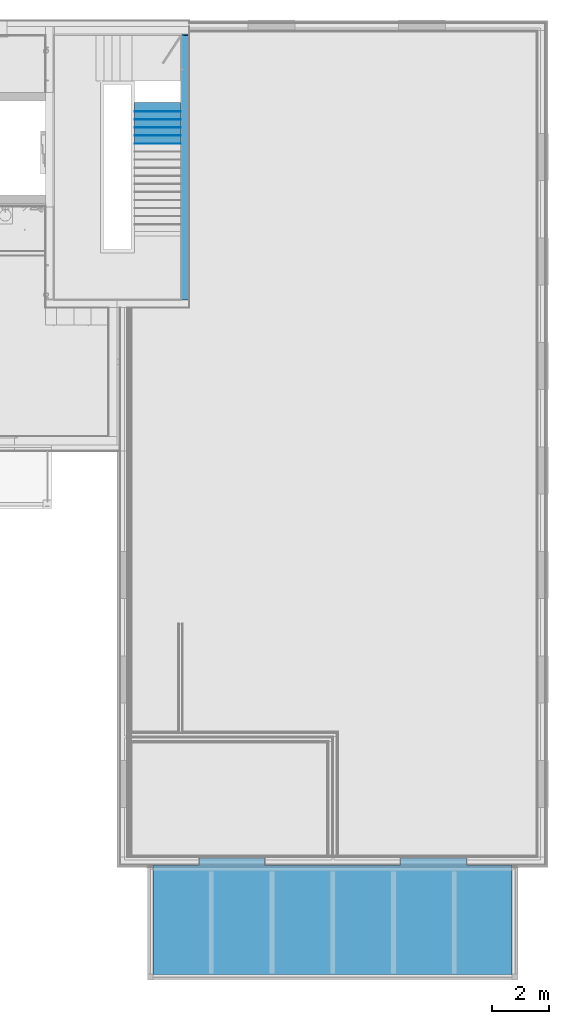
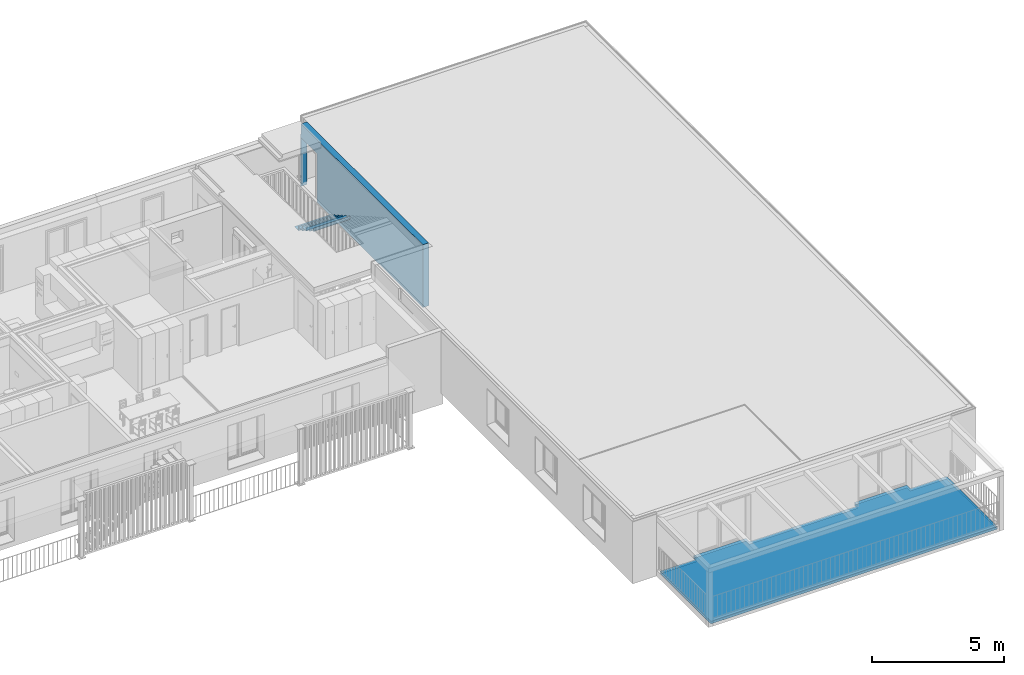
# One storey, part 14 of 34: 14 building element parts, 1 opening, 3 elements without a shape of their own.
"""IFC4 building model written with IfcOpenShell, lengths in millimetres."""

from ifc_helpers import new_model, entity, si_unit, converted_unit, derived_unit, direction, frame, origin_with_axes, place, context, subcontext, project, spatial, polygons, material, type_object, element, aggregate, save


model = new_model("IFC4")

# Units and contexts
model_context = context("Model", 3, precision=0.01, world=origin_with_axes(), true_north=direction((0.0, 1.0)))
body_context = subcontext(model_context, "Body", "Model", "MODEL_VIEW")
ifc_project = project(units=[si_unit("LENGTHUNIT", "METRE", prefix="MILLI"), si_unit("AREAUNIT", "SQUARE_METRE"), si_unit("VOLUMEUNIT", "CUBIC_METRE"), converted_unit("PLANEANGLEUNIT", "DEGREE", entity("IfcPlaneAngleMeasure", 0.0174532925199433), si_unit("PLANEANGLEUNIT", "RADIAN"), dimensions=[0, 0, 0, 0, 0, 0, 0]), converted_unit("TIMEUNIT", "Year", entity("IfcTimeMeasure", 31557600.0), si_unit("TIMEUNIT", "SECOND"), dimensions=[0, 0, 1, 0, 0, 0, 0]), si_unit("MASSUNIT", "GRAM", prefix="KILO"), si_unit("THERMODYNAMICTEMPERATUREUNIT", "DEGREE_CELSIUS"), si_unit("LUMINOUSINTENSITYUNIT", "LUMEN"), si_unit("ENERGYUNIT", "JOULE", prefix="MEGA"), derived_unit("THERMALCONDUCTANCEUNIT", [(si_unit("POWERUNIT", "WATT"), 1), (si_unit("LENGTHUNIT", "METRE"), -1), (si_unit("THERMODYNAMICTEMPERATUREUNIT", "KELVIN"), -1)]), derived_unit("SPECIFICHEATCAPACITYUNIT", [(si_unit("ENERGYUNIT", "JOULE"), 1), (si_unit("MASSUNIT", "GRAM", prefix="KILO"), -1), (si_unit("THERMODYNAMICTEMPERATUREUNIT", "KELVIN"), -1)]), derived_unit("MASSDENSITYUNIT", [(si_unit("MASSUNIT", "GRAM", prefix="KILO"), 1), (si_unit("VOLUMEUNIT", "CUBIC_METRE"), -1)])], contexts=[model_context])

# Site, building, storey
site_placement = place(None, origin_with_axes())
site = spatial("IfcSite", under=ifc_project, at=site_placement, Name="Gelände", CompositionType="ELEMENT")
building_placement = place(site_placement, origin_with_axes())
building = spatial("IfcBuilding", under=site, at=building_placement, Name="Gebäude", CompositionType="ELEMENT")
storey_placement = place(building_placement, frame((0.0, 0.0, 5799.999999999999), z_axis=(0.0, 0.0, 1.0), x_axis=(1.0, 0.0, 0.0)))
storey = spatial("IfcBuildingStorey", under=building, at=storey_placement, Name="2.OG", CompositionType="ELEMENT", Elevation=5800.0)

# Wall, opening, building element part
wall_type = type_object("IfcWallType", Name="Innenwand Typ 10 310", PredefinedType="NOTDEFINED")
wall_placement = place(storey_placement, frame((20128.99744477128, 27937.59728131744, 499.9999999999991), z_axis=(0.0, 0.0, 1.0), x_axis=(0.0, 1.0, 0.0)))
wall = element("IfcWall", 1, at=wall_placement, inside=storey, type_object=wall_type, Name="Wand-014", PredefinedType="NOTDEFINED")
opening_placement = place(wall_placement, frame((8899.999999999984, 0.0, 150.0000000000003), z_axis=(0.0, 0.0, 1.0), x_axis=(1.0, 0.0, 0.0)))
element("IfcOpeningElement", 2, at=opening_placement, cuts=wall, Name="Tür-012", context=body_context, identifier="Reference", shape_type="Tessellation", body=[
    polygons([(-600.0000000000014, -310.9999999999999, 2100.0), (-600.0000000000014, -310.9999999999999, -649.9999999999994), (600.0000000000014, -310.9999999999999, -649.9999999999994), (600.0000000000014, -310.9999999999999, 2100.0), (-600.0000000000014, 1.000000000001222, 2100.0), (-600.0000000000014, 1.000000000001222, -649.9999999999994), (600.0000000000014, 1.000000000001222, -649.9999999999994), (600.0000000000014, 1.000000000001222, 2100.0)], [[[1, 2, 3, 4]], [[5, 6, 2, 1]], [[6, 7, 3, 2]], [[7, 8, 4, 3]], [[8, 5, 1, 4]], [[7, 6, 5, 8]]], closed=True),
])
ifc_material_1 = material(Name="Beton bewehrt")
building_element_part_1_placement = place(wall_placement, origin_with_axes())
building_element_part_1 = element("IfcBuildingElementPart", 3, at=building_element_part_1_placement, material=ifc_material_1, Name="Beton bewehrt", PredefinedType="NOTDEFINED", context=body_context, shape_type="Tessellation", body=[
    polygons([(8299.999999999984, -300.0000000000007, 0.0), (8299.999999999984, -300.0000000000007, 2250.000000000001), (9499.999999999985, -300.0000000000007, 2250.000000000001), (9499.999999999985, -300.0000000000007, 150.0000000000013), (9499.999999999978, -300.0000000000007, 0.0), (9539.999999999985, -300.0000000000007, 0.0), (9539.999999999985, -300.0000000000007, 2400.000000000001), (9499.999999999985, -300.0000000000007, 2400.000000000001), (9499.999999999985, -300.0000000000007, 2900.000000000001), (269.9999999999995, -300.0000000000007, 2900.000000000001), (269.9999999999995, -300.0000000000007, 0.0), (8299.999999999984, -39.99999999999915, 0.0), (8299.999999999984, -39.99999999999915, 2250.000000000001), (9499.999999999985, -39.99999999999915, 2250.000000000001), (9499.999999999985, -39.99999999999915, 150.0000000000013), (9499.999999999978, -39.99999999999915, 0.0), (9539.999999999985, -39.99999999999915, 0.0), (9539.999999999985, -39.99999999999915, 2400.000000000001), (9499.999999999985, -39.99999999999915, 2400.000000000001), (9499.999999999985, -39.99999999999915, 2900.000000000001), (269.9999999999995, -39.99999999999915, 2900.000000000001), (269.9999999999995, -39.99999999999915, 0.0)], [[[1, 2, 3, 4, 5, 6, 7, 8, 9, 10, 11]], [[2, 1, 12, 13]], [[3, 2, 13, 14]], [[4, 3, 14, 15]], [[4, 15, 16, 5]], [[16, 17, 6, 5]], [[18, 7, 6, 17]], [[8, 7, 18, 19]], [[20, 9, 8, 19]], [[9, 20, 21, 10]], [[22, 11, 10, 21]], [[12, 1, 11, 22]], [[13, 12, 22, 21, 20, 19, 18, 17, 16, 15, 14]]], closed=True),
])
aggregate(wall, [building_element_part_1])

# Stair, building element parts
stair_type = type_object("IfcStairType", Name="Treppentyp", PredefinedType="NOTDEFINED")
stair_placement = place(storey_placement, frame((20128.99743772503, 35092.59728131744, 650.0000000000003), z_axis=(0.0, 0.0, 1.0), x_axis=(1.0, 0.0, 0.0)))
stair = element("IfcStair", 4, at=stair_placement, inside=storey, type_object=stair_type, Name="Treppe-001", PredefinedType="NOTDEFINED")
ifc_material_2 = material(Name="Keramik")
building_element_part_2_placement = place(stair_placement, origin_with_axes())
building_element_part_2 = element("IfcBuildingElementPart", 5, at=building_element_part_2_placement, material=ifc_material_2, Name="Keramik", PredefinedType="NOTDEFINED", context=body_context, shape_type="Tessellation", body=[
    polygons([(-1600.000000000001, -301.2500000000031, 141.3333333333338), (-1600.000000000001, -311.2500000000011, 141.3333333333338), (0.0, -311.2500000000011, 141.3333333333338), (0.0, -301.2500000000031, 141.3333333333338), (-1600.000000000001, -301.2500000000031, 0.0), (-1600.000000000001, -311.2500000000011, 0.0), (0.0, -311.2500000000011, 0.0), (0.0, -301.2500000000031, 0.0)], [[[1, 2, 3, 4]], [[1, 5, 6, 2]], [[2, 6, 7, 3]], [[4, 3, 7, 8]], [[5, 1, 4, 8]], [[6, 5, 8, 7]]], closed=True),
])
building_element_part_3_placement = place(stair_placement, origin_with_axes())
building_element_part_3 = element("IfcBuildingElementPart", 6, at=building_element_part_3_placement, material=ifc_material_2, Name="Keramik", PredefinedType="NOTDEFINED", context=body_context, shape_type="Tessellation", body=[
    polygons([(-1600.000000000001, -582.5000000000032, 302.6666666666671), (-1600.000000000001, -592.5000000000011, 302.6666666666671), (0.0, -592.5000000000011, 302.6666666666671), (0.0, -582.5000000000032, 302.6666666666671), (-1600.000000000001, -582.5000000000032, 161.3333333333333), (-1600.000000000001, -592.5000000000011, 161.3333333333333), (0.0, -592.5000000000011, 161.3333333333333), (0.0, -582.5000000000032, 161.3333333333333)], [[[1, 2, 3, 4]], [[1, 5, 6, 2]], [[2, 6, 7, 3]], [[4, 3, 7, 8]], [[5, 1, 4, 8]], [[6, 5, 8, 7]]], closed=True),
])
building_element_part_4_placement = place(stair_placement, origin_with_axes())
building_element_part_4 = element("IfcBuildingElementPart", 7, at=building_element_part_4_placement, material=ifc_material_2, Name="Keramik", PredefinedType="NOTDEFINED", context=body_context, shape_type="Tessellation", body=[
    polygons([(-1600.000000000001, -863.7500000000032, 464.0000000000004), (-1600.000000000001, -873.7500000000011, 464.0000000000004), (0.0, -873.7500000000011, 464.0000000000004), (0.0, -863.7500000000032, 464.0000000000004), (-1600.000000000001, -863.7500000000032, 322.6666666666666), (-1600.000000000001, -873.7500000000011, 322.6666666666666), (0.0, -873.7500000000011, 322.6666666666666), (0.0, -863.7500000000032, 322.6666666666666)], [[[1, 2, 3, 4]], [[1, 5, 6, 2]], [[2, 6, 7, 3]], [[4, 3, 7, 8]], [[5, 1, 4, 8]], [[6, 5, 8, 7]]], closed=True),
])
building_element_part_5_placement = place(stair_placement, origin_with_axes())
building_element_part_5 = element("IfcBuildingElementPart", 8, at=building_element_part_5_placement, material=ifc_material_2, Name="Keramik", PredefinedType="NOTDEFINED", context=body_context, shape_type="Tessellation", body=[
    polygons([(-1600.000000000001, -1145.000000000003, 625.3333333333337), (-1600.000000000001, -1155.000000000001, 625.3333333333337), (0.0, -1155.000000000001, 625.3333333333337), (0.0, -1145.000000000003, 625.3333333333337), (-1600.000000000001, -1145.000000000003, 484.0), (-1600.000000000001, -1155.000000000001, 484.0), (0.0, -1155.000000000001, 484.0), (0.0, -1145.000000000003, 484.0)], [[[1, 2, 3, 4]], [[1, 5, 6, 2]], [[2, 6, 7, 3]], [[4, 3, 7, 8]], [[5, 1, 4, 8]], [[6, 5, 8, 7]]], closed=True),
])
building_element_part_6_placement = place(stair_placement, origin_with_axes())
building_element_part_6 = element("IfcBuildingElementPart", 9, at=building_element_part_6_placement, material=ifc_material_2, Name="Keramik", PredefinedType="NOTDEFINED", context=body_context, shape_type="Tessellation", body=[
    polygons([(-1600.000000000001, -1426.250000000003, 786.6666666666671), (-1600.000000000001, -1436.250000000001, 786.6666666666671), (0.0, -1436.250000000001, 786.6666666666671), (0.0, -1426.250000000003, 786.6666666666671), (-1600.000000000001, -1426.250000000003, 645.3333333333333), (-1600.000000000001, -1436.250000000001, 645.3333333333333), (0.0, -1436.250000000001, 645.3333333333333), (0.0, -1426.250000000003, 645.3333333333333)], [[[1, 2, 3, 4]], [[1, 5, 6, 2]], [[2, 6, 7, 3]], [[4, 3, 7, 8]], [[5, 1, 4, 8]], [[6, 5, 8, 7]]], closed=True),
])
building_element_part_7_placement = place(stair_placement, origin_with_axes())
building_element_part_7 = element("IfcBuildingElementPart", 10, at=building_element_part_7_placement, material=ifc_material_2, Name="Keramik", PredefinedType="NOTDEFINED", context=body_context, shape_type="Tessellation", body=[
    polygons([(0.0, 0.0, -19.99999999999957), (-1600.000000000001, 0.0, -19.99999999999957), (-1600.000000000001, 0.0, 0.0), (0.0, 0.0, 0.0), (0.0, -311.2500000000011, -19.99999999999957), (-1600.000000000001, -311.2500000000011, -19.99999999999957), (-1600.000000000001, -311.2500000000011, 0.0), (0.0, -311.2500000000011, 0.0)], [[[1, 2, 3, 4]], [[1, 5, 6, 2]], [[2, 6, 7, 3]], [[4, 3, 7, 8]], [[5, 1, 4, 8]], [[6, 5, 8, 7]]], closed=True),
])
building_element_part_8_placement = place(stair_placement, origin_with_axes())
building_element_part_8 = element("IfcBuildingElementPart", 11, at=building_element_part_8_placement, material=ifc_material_2, Name="Keramik", PredefinedType="NOTDEFINED", context=body_context, shape_type="Tessellation", body=[
    polygons([(0.0, -281.25, 141.3333333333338), (-1600.000000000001, -281.25, 141.3333333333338), (-1600.000000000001, -281.25, 161.3333333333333), (0.0, -281.25, 161.3333333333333), (0.0, -592.5000000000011, 141.3333333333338), (-1600.000000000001, -592.5000000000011, 141.3333333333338), (-1600.000000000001, -592.5000000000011, 161.3333333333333), (0.0, -592.5000000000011, 161.3333333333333)], [[[1, 2, 3, 4]], [[1, 5, 6, 2]], [[2, 6, 7, 3]], [[4, 3, 7, 8]], [[5, 1, 4, 8]], [[6, 5, 8, 7]]], closed=True),
])
building_element_part_9_placement = place(stair_placement, origin_with_axes())
building_element_part_9 = element("IfcBuildingElementPart", 12, at=building_element_part_9_placement, material=ifc_material_2, Name="Keramik", PredefinedType="NOTDEFINED", context=body_context, shape_type="Tessellation", body=[
    polygons([(0.0, -562.5, 302.6666666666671), (-1600.000000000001, -562.5, 302.6666666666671), (-1600.000000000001, -562.5, 322.6666666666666), (0.0, -562.5, 322.6666666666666), (0.0, -873.7500000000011, 302.6666666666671), (-1600.000000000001, -873.7500000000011, 302.6666666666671), (-1600.000000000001, -873.7500000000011, 322.6666666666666), (0.0, -873.7500000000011, 322.6666666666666)], [[[1, 2, 3, 4]], [[1, 5, 6, 2]], [[2, 6, 7, 3]], [[4, 3, 7, 8]], [[5, 1, 4, 8]], [[6, 5, 8, 7]]], closed=True),
])
building_element_part_10_placement = place(stair_placement, origin_with_axes())
building_element_part_10 = element("IfcBuildingElementPart", 13, at=building_element_part_10_placement, material=ifc_material_2, Name="Keramik", PredefinedType="NOTDEFINED", context=body_context, shape_type="Tessellation", body=[
    polygons([(0.0, -1125.0, 625.3333333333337), (-1600.000000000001, -1125.0, 625.3333333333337), (-1600.000000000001, -1125.0, 645.3333333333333), (0.0, -1125.0, 645.3333333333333), (0.0, -1436.250000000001, 625.3333333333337), (-1600.000000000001, -1436.250000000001, 625.3333333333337), (-1600.000000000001, -1436.250000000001, 645.3333333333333), (0.0, -1436.250000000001, 645.3333333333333)], [[[1, 2, 3, 4]], [[1, 5, 6, 2]], [[2, 6, 7, 3]], [[4, 3, 7, 8]], [[5, 1, 4, 8]], [[6, 5, 8, 7]]], closed=True),
])
building_element_part_11_placement = place(stair_placement, origin_with_axes())
building_element_part_11 = element("IfcBuildingElementPart", 14, at=building_element_part_11_placement, material=ifc_material_2, Name="Keramik", PredefinedType="NOTDEFINED", context=body_context, shape_type="Tessellation", body=[
    polygons([(0.0, -843.75, 464.0000000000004), (-1600.000000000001, -843.75, 464.0000000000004), (-1600.000000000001, -843.75, 484.0), (0.0, -843.75, 484.0), (0.0, -1155.000000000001, 464.0000000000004), (-1600.000000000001, -1155.000000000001, 464.0000000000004), (-1600.000000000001, -1155.000000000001, 484.0), (0.0, -1155.000000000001, 484.0)], [[[1, 2, 3, 4]], [[1, 5, 6, 2]], [[2, 6, 7, 3]], [[4, 3, 7, 8]], [[5, 1, 4, 8]], [[6, 5, 8, 7]]], closed=True),
])
aggregate(stair, [building_element_part_2, building_element_part_3, building_element_part_4, building_element_part_5, building_element_part_6, building_element_part_7, building_element_part_8, building_element_part_9, building_element_part_10, building_element_part_11])

# Covering, building element parts
covering_type = type_object("IfcCoveringType", Name="Dacheindeckung Typ 01 120", PredefinedType="NOTDEFINED")
covering_placement = place(storey_placement, frame((31686.99739752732, 8518.597281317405, 499.9999999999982), z_axis=(0.0, 0.0, 1.0), x_axis=(1.0, 0.0, 0.0)))
covering = element("IfcCovering", 15, at=covering_placement, inside=storey, type_object=covering_type, Name="Deckennr.-073", PredefinedType="NOTDEFINED")
ifc_material_3 = material(Name="Bodenbelag")
building_element_part_12_placement = place(covering_placement, origin_with_axes())
building_element_part_12 = element("IfcBuildingElementPart", 16, at=building_element_part_12_placement, material=ifc_material_3, Name="Bodenbelag", PredefinedType="NOTDEFINED", context=body_context, shape_type="Tessellation", body=[
    polygons([(-12511.99992747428, -3799.999999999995, 120.0999999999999), (-12511.99992747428, -3836.744219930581, 120.0999999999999), (-3.999978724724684, -3836.744219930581, 120.0999999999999), (-3.999978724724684, -3799.999999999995, 120.0999999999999), (0.0, -3799.999999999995, 120.0999999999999), (0.0, -49.99999999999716, 120.0999999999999), (-1578.666620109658, -49.99999999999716, 120.0999999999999), (-1578.666620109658, 0.0, 120.0999999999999), (-1599.666620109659, 0.0, 120.0999999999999), (-1599.666620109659, 250.0000000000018, 120.0999999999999), (-3889.666620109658, 250.0000000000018, 120.0999999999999), (-3889.666620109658, 0.0, 120.0999999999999), (-3910.666620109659, 0.0, 120.0999999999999), (-3910.666620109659, -49.99999999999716, 120.0999999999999), (-8605.333286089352, -49.99999999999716, 120.0999999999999), (-8605.333286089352, 0.0, 120.0999999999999), (-8626.333286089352, 0.0, 120.0999999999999), (-8626.333286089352, 250.0000000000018, 120.0999999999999), (-10916.33328608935, 250.0000000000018, 120.0999999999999), (-10916.33328608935, 0.0, 120.0999999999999), (-10937.33328608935, 0.0, 120.0999999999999), (-10937.33328608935, -49.99999999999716, 120.0999999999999), (-12515.99990619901, -49.99999999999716, 120.0999999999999), (-12515.99990619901, -3799.999999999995, 120.0999999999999), (-12511.99992747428, -3799.999999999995, 100.1000000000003), (-12511.99992747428, -3836.744219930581, 100.1000000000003), (-3.999978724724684, -3836.744219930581, 100.1000000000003), (-3.999978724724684, -3799.999999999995, 100.1000000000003), (0.0, -3799.999999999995, 100.1000000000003), (0.0, 0.0, 100.1000000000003), (0.0, 0.0, 120.0000000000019), (0.0, -49.99999999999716, 120.0000000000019), (-1578.666620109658, -49.99999999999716, 120.0000000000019), (-1578.666620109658, 0.0, 120.0000000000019), (-1599.666620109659, 0.0, 100.1000000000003), (-1599.666620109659, 250.0000000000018, 100.1000000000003), (-3889.666620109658, 250.0000000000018, 100.1000000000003), (-3889.666620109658, 0.0, 100.1000000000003), (-8605.333286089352, 0.0, 120.0000000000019), (-3910.666620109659, 0.0, 120.0000000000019), (-8626.333286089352, 0.0, 100.1000000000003), (-3910.666620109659, -49.99999999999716, 120.0000000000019), (-8605.333286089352, -49.99999999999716, 120.0000000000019), (-8626.333286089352, 250.0000000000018, 100.1000000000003), (-10916.33328608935, 250.0000000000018, 100.1000000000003), (-10916.33328608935, 0.0, 100.1000000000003), (-12515.99990619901, 0.0, 100.1000000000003), (-12515.99990619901, 0.0, 120.0000000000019), (-10937.33328608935, 0.0, 120.0000000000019), (-10937.33328608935, -49.99999999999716, 120.0000000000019), (-12515.99990619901, -49.99999999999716, 120.0000000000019), (-12515.99990619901, -3799.999999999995, 100.1000000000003)], [[[1, 2, 3, 4, 5, 6, 7, 8, 9, 10, 11, 12, 13, 14, 15, 16, 17, 18, 19, 20, 21, 22, 23, 24]], [[2, 1, 25, 26]], [[2, 26, 27, 3]], [[4, 3, 27, 28]], [[29, 5, 4, 28]], [[5, 29, 30, 31, 32, 6]], [[32, 33, 7, 6]], [[34, 8, 7, 33]], [[35, 9, 8, 34, 31, 30]], [[10, 9, 35, 36]], [[11, 10, 36, 37]], [[12, 11, 37, 38]], [[17, 16, 39, 40, 13, 12, 38, 41]], [[14, 13, 40, 42]], [[42, 43, 15, 14]], [[39, 16, 15, 43]], [[18, 17, 41, 44]], [[19, 18, 44, 45]], [[20, 19, 45, 46]], [[46, 47, 48, 49, 21, 20]], [[22, 21, 49, 50]], [[50, 51, 23, 22]], [[52, 24, 23, 51, 48, 47]], [[1, 24, 52, 25]], [[25, 52, 47, 46, 45, 44, 41, 38, 37, 36, 35, 30, 29, 28, 27, 26]], [[32, 31, 34, 33]], [[40, 39, 43, 42]], [[49, 48, 51, 50]]], closed=True),
])
ifc_material_4 = material(Name="Dämmung Aussen")
building_element_part_13_placement = place(covering_placement, origin_with_axes())
building_element_part_13 = element("IfcBuildingElementPart", 17, at=building_element_part_13_placement, material=ifc_material_4, Name="Dämmung Aussen", PredefinedType="NOTDEFINED", context=body_context, shape_type="Tessellation", body=[
    polygons([(-12511.99992747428, -3799.999999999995, 100.1000000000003), (-12511.99992747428, -3836.744219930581, 100.1000000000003), (-3.999978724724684, -3836.744219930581, 100.1000000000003), (-3.999978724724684, -3799.999999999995, 100.1000000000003), (0.0, -3799.999999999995, 100.1000000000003), (0.0, 0.0, 100.1000000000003), (-1599.666620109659, 0.0, 100.1000000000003), (-1599.666620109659, 250.0000000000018, 100.1000000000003), (-3889.666620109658, 250.0000000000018, 100.1000000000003), (-3889.666620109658, 0.0, 100.1000000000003), (-8626.333286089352, 0.0, 100.1000000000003), (-8626.333286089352, 250.0000000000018, 100.1000000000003), (-10916.33328608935, 250.0000000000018, 100.1000000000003), (-10916.33328608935, 0.0, 100.1000000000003), (-12515.99990619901, 0.0, 100.1000000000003), (-12515.99990619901, -3799.999999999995, 100.1000000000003), (-12511.99992747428, -3799.999999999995, 0.1000000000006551), (-12511.99992747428, -3836.744219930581, 0.1000000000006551), (-3.999978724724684, -3836.744219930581, 0.1000000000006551), (-3.999978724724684, -3799.999999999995, 0.1000000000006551), (0.0, -3799.999999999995, 0.1000000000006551), (0.0, 0.0, 0.1000000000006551), (-1599.666620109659, 0.0, 0.1000000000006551), (-1599.666620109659, 250.0000000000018, 0.1000000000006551), (-3889.666620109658, 250.0000000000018, 0.1000000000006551), (-3889.666620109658, 0.0, 0.1000000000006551), (-8626.333286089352, 0.0, 0.1000000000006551), (-8626.333286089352, 250.0000000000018, 0.1000000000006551), (-10916.33328608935, 250.0000000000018, 0.1000000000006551), (-10916.33328608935, 0.0, 0.1000000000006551), (-12515.99990619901, 0.0, 0.1000000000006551), (-12515.99990619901, -3799.999999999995, 0.1000000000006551)], [[[1, 2, 3, 4, 5, 6, 7, 8, 9, 10, 11, 12, 13, 14, 15, 16]], [[2, 1, 17, 18]], [[2, 18, 19, 3]], [[4, 3, 19, 20]], [[21, 5, 4, 20]], [[5, 21, 22, 6]], [[7, 6, 22, 23]], [[8, 7, 23, 24]], [[9, 8, 24, 25]], [[10, 9, 25, 26]], [[11, 10, 26, 27]], [[12, 11, 27, 28]], [[13, 12, 28, 29]], [[14, 13, 29, 30]], [[15, 14, 30, 31]], [[32, 16, 15, 31]], [[1, 16, 32, 17]], [[17, 32, 31, 30, 29, 28, 27, 26, 25, 24, 23, 22, 21, 20, 19, 18]]], closed=True),
])
ifc_material_5 = material(Name="Sperrschicht")
building_element_part_14_placement = place(covering_placement, origin_with_axes())
building_element_part_14 = element("IfcBuildingElementPart", 18, at=building_element_part_14_placement, material=ifc_material_5, Name="Sperrschicht", PredefinedType="NOTDEFINED", context=body_context, shape_type="Tessellation", body=[
    polygons([(-12515.99990619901, -3799.999999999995, 0.0), (-12511.99992747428, -3799.999999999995, -5.18972109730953e-05), (-12511.99992747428, -3799.999999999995, 0.09999999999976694), (-12515.99990619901, -3799.999999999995, 0.09999999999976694), (-12515.99990619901, 0.0, 0.0), (-10916.33328608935, 0.0, 0.0), (-10916.33328608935, 250.0000000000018, 0.0), (-8626.333286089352, 250.0000000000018, 0.0), (-8626.333286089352, 0.0, 0.0), (-3889.666620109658, 0.0, 0.0), (-3889.666620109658, 250.0000000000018, 0.0), (-1599.666620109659, 250.0000000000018, 0.0), (-1599.666620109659, 0.0, 0.0), (0.0, 0.0, 0.0), (0.0, -3799.999999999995, 0.0), (-3.999978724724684, -3799.999999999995, -5.18972109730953e-05), (-3.999978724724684, -3836.744219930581, 0.0), (-12511.99992747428, -3836.744219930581, 0.0), (-12511.99992747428, -3836.744219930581, 0.09999999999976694), (-3.999978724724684, -3836.744219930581, 0.09999999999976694), (-3.999978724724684, -3799.999999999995, 0.09999999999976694), (0.0, -3799.999999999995, 0.09999999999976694), (0.0, 0.0, 0.09999999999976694), (-1599.666620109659, 0.0, 0.09999999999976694), (-1599.666620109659, 250.0000000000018, 0.09999999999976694), (-3889.666620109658, 250.0000000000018, 0.09999999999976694), (-3889.666620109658, 0.0, 0.09999999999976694), (-8626.333286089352, 0.0, 0.09999999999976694), (-8626.333286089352, 250.0000000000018, 0.09999999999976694), (-10916.33328608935, 250.0000000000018, 0.09999999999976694), (-10916.33328608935, 0.0, 0.09999999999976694), (-12515.99990619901, 0.0, 0.09999999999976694)], [[[1, 2, 3, 4]], [[2, 1, 5, 6, 7, 8, 9, 10, 11, 12, 13, 14, 15, 16, 17, 18]], [[19, 3, 2, 18]], [[3, 19, 20, 21, 22, 23, 24, 25, 26, 27, 28, 29, 30, 31, 32, 4]], [[1, 4, 32, 5]], [[6, 5, 32, 31]], [[6, 31, 30, 7]], [[7, 30, 29, 8]], [[9, 8, 29, 28]], [[28, 27, 10, 9]], [[27, 26, 11, 10]], [[26, 25, 12, 11]], [[24, 13, 12, 25]], [[13, 24, 23, 14]], [[15, 14, 23, 22]], [[21, 16, 15, 22]], [[17, 16, 21, 20]], [[19, 18, 17, 20]]], closed=True),
])
aggregate(covering, [building_element_part_12, building_element_part_13, building_element_part_14])

save(model, "model.ifc")
